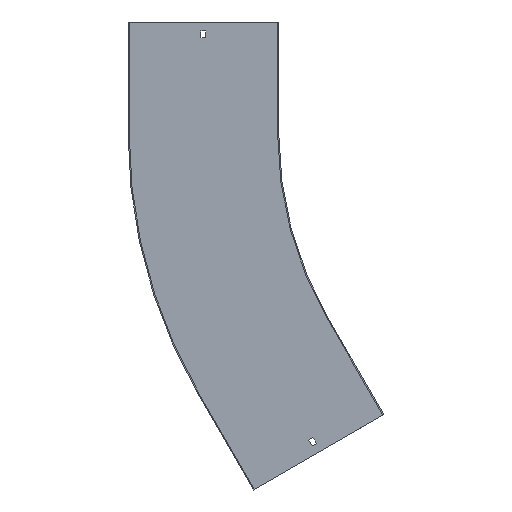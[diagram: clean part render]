
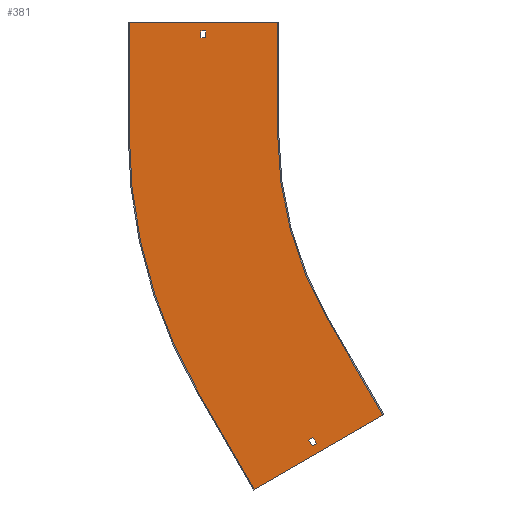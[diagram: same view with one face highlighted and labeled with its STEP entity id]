
A CAD part, front view. The second image highlights one B-rep face of the part: STEP entity #381.
In plain terms, the highlighted planar face has unit normal (0, -1, 0).
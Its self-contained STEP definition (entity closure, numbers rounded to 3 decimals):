
#1 = VECTOR ( 'NONE', #859, 1000. ) ;
#7 = CARTESIAN_POINT ( 'NONE',  ( -433.013, -1.5, -250. ) ) ;
#23 = VECTOR ( 'NONE', #156, 1000. ) ;
#24 = CARTESIAN_POINT ( 'NONE',  ( -701.5, -1.5, 150. ) ) ;
#40 = VECTOR ( 'NONE', #148, 1000. ) ;
#62 = DIRECTION ( 'NONE',  ( -1., 0., 0. ) ) ;
#66 = DIRECTION ( 'NONE',  ( -0.866, 0., -0.5 ) ) ;
#77 = CARTESIAN_POINT ( 'NONE',  ( -457.93, -1.5, -413.342 ) ) ;
#78 = CARTESIAN_POINT ( 'NONE',  ( -531.218, -1.5, -479.904 ) ) ;
#87 = CARTESIAN_POINT ( 'NONE',  ( -700., -1.5, 0. ) ) ;
#92 = EDGE_CURVE ( 'NONE', #181, #382, #754, .T. ) ;
#96 = VECTOR ( 'NONE', #478, 1000. ) ;
#101 = EDGE_LOOP ( 'NONE', ( #709, #279, #455, #656, #683, #631, #316, #251 ) ) ;
#105 = VERTEX_POINT ( 'NONE', #360 ) ;
#118 = CARTESIAN_POINT ( 'NONE',  ( -522.43, -1.5, -301.625 ) ) ;
#122 = CARTESIAN_POINT ( 'NONE',  ( 0., -1.5, 0. ) ) ;
#134 = CARTESIAN_POINT ( 'NONE',  ( -596.75, -1.5, 0. ) ) ;
#135 = EDGE_CURVE ( 'NONE', #758, #549, #632, .T. ) ;
#138 = LINE ( 'NONE', #7, #363 ) ;
#139 = AXIS2_PLACEMENT_3D ( 'NONE', #380, #438, #708 ) ;
#144 = CARTESIAN_POINT ( 'NONE',  ( -603.25, -1.5, 138. ) ) ;
#148 = DIRECTION ( 'NONE',  ( 0., 0., -1. ) ) ;
#152 = VECTOR ( 'NONE', #403, 1000. ) ;
#156 = DIRECTION ( 'NONE',  ( 0., 0., -1. ) ) ;
#165 = VERTEX_POINT ( 'NONE', #703 ) ;
#170 = CARTESIAN_POINT ( 'NONE',  ( -603.25, -1.5, 0. ) ) ;
#181 = VERTEX_POINT ( 'NONE', #310 ) ;
#188 = LINE ( 'NONE', #118, #1 ) ;
#192 = VERTEX_POINT ( 'NONE', #87 ) ;
#193 = CARTESIAN_POINT ( 'NONE',  ( -500., -1.5, 150. ) ) ;
#206 = CARTESIAN_POINT ( 'NONE',  ( -447.801, -1.5, -417.887 ) ) ;
#214 = CARTESIAN_POINT ( 'NONE',  ( -356.714, -1.5, -379.154 ) ) ;
#216 = ORIENTED_EDGE ( 'NONE', *, *, #542, .T. ) ;
#218 = DIRECTION ( 'NONE',  ( 0., 0., -1. ) ) ;
#229 = EDGE_CURVE ( 'NONE', #549, #502, #276, .T. ) ;
#234 = VERTEX_POINT ( 'NONE', #77 ) ;
#240 = VERTEX_POINT ( 'NONE', #694 ) ;
#244 = FACE_BOUND ( 'NONE', #439, .T. ) ;
#251 = ORIENTED_EDGE ( 'NONE', *, *, #229, .F. ) ;
#264 = ORIENTED_EDGE ( 'NONE', *, *, #756, .T. ) ;
#266 = VERTEX_POINT ( 'NONE', #206 ) ;
#269 = EDGE_CURVE ( 'NONE', #302, #240, #138, .T. ) ;
#273 = VECTOR ( 'NONE', #296, 1000. ) ;
#274 = DIRECTION ( 'NONE',  ( 1., 0., 0. ) ) ;
#276 = LINE ( 'NONE', #622, #23 ) ;
#277 = EDGE_CURVE ( 'NONE', #534, #266, #675, .T. ) ;
#279 = ORIENTED_EDGE ( 'NONE', *, *, #404, .F. ) ;
#290 = DIRECTION ( 'NONE',  ( 0.866, 0., 0.5 ) ) ;
#296 = DIRECTION ( 'NONE',  ( 1., 0., 0. ) ) ;
#302 = VERTEX_POINT ( 'NONE', #365 ) ;
#310 = CARTESIAN_POINT ( 'NONE',  ( -603.25, -1.5, 129. ) ) ;
#316 = ORIENTED_EDGE ( 'NONE', *, *, #748, .F. ) ;
#330 = LINE ( 'NONE', #214, #448 ) ;
#340 = CARTESIAN_POINT ( 'NONE',  ( -700., -1.5, 150. ) ) ;
#344 = LINE ( 'NONE', #789, #686 ) ;
#346 = ORIENTED_EDGE ( 'NONE', *, *, #544, .F. ) ;
#360 = CARTESIAN_POINT ( 'NONE',  ( -596.75, -1.5, 138. ) ) ;
#363 = VECTOR ( 'NONE', #407, 1000. ) ;
#365 = CARTESIAN_POINT ( 'NONE',  ( -433.013, -1.5, -250. ) ) ;
#380 = CARTESIAN_POINT ( 'NONE',  ( 0., -1.5, 0. ) ) ;
#381 = ADVANCED_FACE ( 'NONE', ( #576, #833, #244 ), #509, .T. ) ;
#382 = VERTEX_POINT ( 'NONE', #144 ) ;
#385 = DIRECTION ( 'NONE',  ( -0.5, 0., 0.866 ) ) ;
#387 = ORIENTED_EDGE ( 'NONE', *, *, #511, .F. ) ;
#395 = DIRECTION ( 'NONE',  ( 0., 1., 0. ) ) ;
#403 = DIRECTION ( 'NONE',  ( 0., 0., 1. ) ) ;
#404 = EDGE_CURVE ( 'NONE', #192, #758, #798, .T. ) ;
#407 = DIRECTION ( 'NONE',  ( 0.5, 0., -0.866 ) ) ;
#409 = EDGE_CURVE ( 'NONE', #610, #732, #740, .T. ) ;
#417 = EDGE_CURVE ( 'NONE', #382, #105, #344, .T. ) ;
#438 = DIRECTION ( 'NONE',  ( 0., -1., 0. ) ) ;
#439 = EDGE_LOOP ( 'NONE', ( #645, #264, #216, #557 ) ) ;
#442 = CARTESIAN_POINT ( 'NONE',  ( -500., -1.5, 0. ) ) ;
#446 = ORIENTED_EDGE ( 'NONE', *, *, #585, .F. ) ;
#448 = VECTOR ( 'NONE', #483, 1000. ) ;
#455 = ORIENTED_EDGE ( 'NONE', *, *, #531, .F. ) ;
#469 = CARTESIAN_POINT ( 'NONE',  ( -516.801, -1.5, -298.375 ) ) ;
#473 = LINE ( 'NONE', #134, #40 ) ;
#475 = CARTESIAN_POINT ( 'NONE',  ( -596.75, -1.5, 129. ) ) ;
#478 = DIRECTION ( 'NONE',  ( -0.5, 0., 0.866 ) ) ;
#483 = DIRECTION ( 'NONE',  ( -0.866, 0., -0.5 ) ) ;
#484 = EDGE_LOOP ( 'NONE', ( #446, #537, #346, #387 ) ) ;
#502 = VERTEX_POINT ( 'NONE', #442 ) ;
#509 = PLANE ( 'NONE',  #139 ) ;
#511 = EDGE_CURVE ( 'NONE', #165, #234, #691, .T. ) ;
#519 = CARTESIAN_POINT ( 'NONE',  ( 64.5, -1.5, -111.717 ) ) ;
#524 = CARTESIAN_POINT ( 'NONE',  ( -453.43, -1.5, -421.137 ) ) ;
#531 = EDGE_CURVE ( 'NONE', #732, #192, #830, .T. ) ;
#534 = VERTEX_POINT ( 'NONE', #524 ) ;
#536 = AXIS2_PLACEMENT_3D ( 'NONE', #122, #395, #665 ) ;
#537 = ORIENTED_EDGE ( 'NONE', *, *, #277, .F. ) ;
#542 = EDGE_CURVE ( 'NONE', #602, #181, #724, .T. ) ;
#544 = EDGE_CURVE ( 'NONE', #234, #534, #188, .T. ) ;
#546 = CARTESIAN_POINT ( 'NONE',  ( -606.218, -1.5, -350. ) ) ;
#549 = VERTEX_POINT ( 'NONE', #193 ) ;
#553 = CARTESIAN_POINT ( 'NONE',  ( 0., -1.5, 0. ) ) ;
#557 = ORIENTED_EDGE ( 'NONE', *, *, #92, .T. ) ;
#558 = DIRECTION ( 'NONE',  ( 0., 0., 1. ) ) ;
#566 = CARTESIAN_POINT ( 'NONE',  ( 69., -1.5, -119.512 ) ) ;
#576 = FACE_BOUND ( 'NONE', #484, .T. ) ;
#585 = EDGE_CURVE ( 'NONE', #266, #165, #728, .T. ) ;
#602 = VERTEX_POINT ( 'NONE', #475 ) ;
#610 = VERTEX_POINT ( 'NONE', #857 ) ;
#621 = CIRCLE ( 'NONE', #849, 500. ) ;
#622 = CARTESIAN_POINT ( 'NONE',  ( -500., -1.5, 150. ) ) ;
#631 = ORIENTED_EDGE ( 'NONE', *, *, #269, .F. ) ;
#632 = LINE ( 'NONE', #24, #273 ) ;
#645 = ORIENTED_EDGE ( 'NONE', *, *, #417, .T. ) ;
#656 = ORIENTED_EDGE ( 'NONE', *, *, #409, .F. ) ;
#665 = DIRECTION ( 'NONE',  ( 0., 0., -1. ) ) ;
#671 = CARTESIAN_POINT ( 'NONE',  ( -700., -1.5, 0. ) ) ;
#675 = LINE ( 'NONE', #566, #863 ) ;
#683 = ORIENTED_EDGE ( 'NONE', *, *, #776, .F. ) ;
#686 = VECTOR ( 'NONE', #274, 1000. ) ;
#688 = VECTOR ( 'NONE', #66, 1000. ) ;
#691 = LINE ( 'NONE', #519, #688 ) ;
#694 = CARTESIAN_POINT ( 'NONE',  ( -358.013, -1.5, -379.904 ) ) ;
#703 = CARTESIAN_POINT ( 'NONE',  ( -452.301, -1.5, -410.092 ) ) ;
#708 = DIRECTION ( 'NONE',  ( 0., 0., -1. ) ) ;
#709 = ORIENTED_EDGE ( 'NONE', *, *, #135, .F. ) ;
#724 = LINE ( 'NONE', #845, #762 ) ;
#728 = LINE ( 'NONE', #469, #742 ) ;
#732 = VERTEX_POINT ( 'NONE', #546 ) ;
#740 = LINE ( 'NONE', #78, #96 ) ;
#742 = VECTOR ( 'NONE', #385, 1000. ) ;
#748 = EDGE_CURVE ( 'NONE', #502, #302, #621, .T. ) ;
#754 = LINE ( 'NONE', #170, #819 ) ;
#756 = EDGE_CURVE ( 'NONE', #105, #602, #473, .T. ) ;
#758 = VERTEX_POINT ( 'NONE', #340 ) ;
#762 = VECTOR ( 'NONE', #62, 1000. ) ;
#776 = EDGE_CURVE ( 'NONE', #240, #610, #330, .T. ) ;
#789 = CARTESIAN_POINT ( 'NONE',  ( 0., -1.5, 138. ) ) ;
#798 = LINE ( 'NONE', #671, #152 ) ;
#808 = DIRECTION ( 'NONE',  ( 0., -1., 0. ) ) ;
#819 = VECTOR ( 'NONE', #558, 1000. ) ;
#830 = CIRCLE ( 'NONE', #536, 700. ) ;
#833 = FACE_OUTER_BOUND ( 'NONE', #101, .T. ) ;
#845 = CARTESIAN_POINT ( 'NONE',  ( 0., -1.5, 129. ) ) ;
#849 = AXIS2_PLACEMENT_3D ( 'NONE', #553, #808, #218 ) ;
#857 = CARTESIAN_POINT ( 'NONE',  ( -531.218, -1.5, -479.904 ) ) ;
#859 = DIRECTION ( 'NONE',  ( 0.5, 0., -0.866 ) ) ;
#863 = VECTOR ( 'NONE', #290, 1000. ) ;
